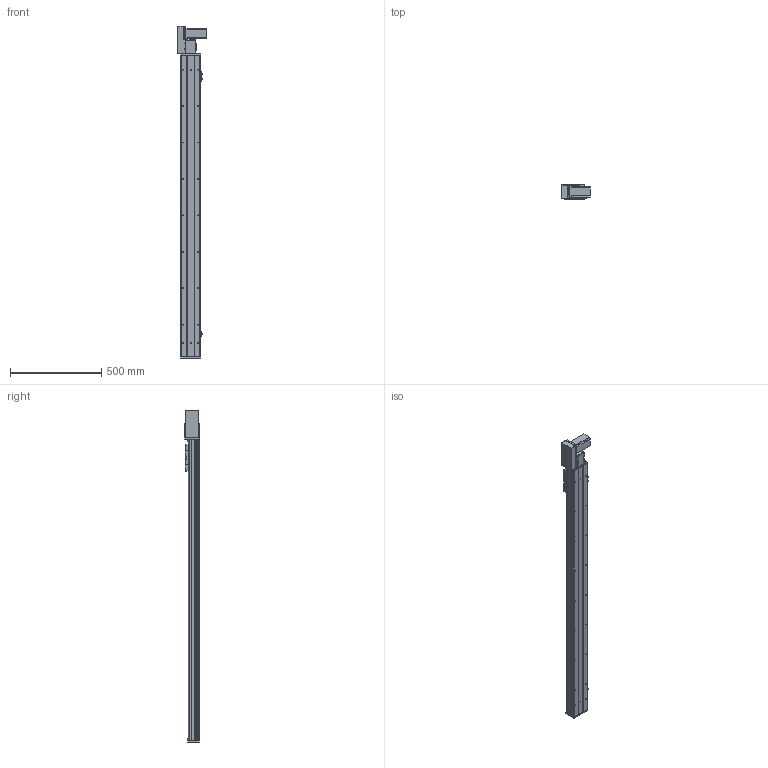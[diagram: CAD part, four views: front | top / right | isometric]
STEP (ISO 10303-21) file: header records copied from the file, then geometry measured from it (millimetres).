
FILE_DESCRIPTION (( 'STEP AP203' ), '1' );
FILE_NAME ('Y10CB-D90-S1400-BL-P400W.STEP', '2020-02-15T08:05:25', ( '微软用户' ), ( '微软中国' ), 'SwSTEP 2.0', 'SolidWorks 2017', '' );
FILE_SCHEMA (( 'CONFIG_CONTROL_DESIGN' ));
Length unit declared in the file: millimetre
Products named in the file (18): Y100-135俋离換覜ん--; 0B-埴倛裔啣; 0CB-雄赽釱---; Y10CB-D90-S1400-BL-P400W; Y俋欶BR----; 0Cb-俋欶---; 10CB-詩湍-; Y10B-々湍喘謫眊楊擘啣--; Y10CB- 掛极耜裔啣-毀---; Y10B--々湍喘謫眊--666; Y10C---詩湍揤啣; Y10B-耜蚾蟀諉啣----; 10CB9-掛极; 0B-萇儂楊擘啣; 10CB-耜裔; san松下电机400不带刹车----; Y135C-陔俋离換覜結え-; 0B-源倛裔啣
Assembly tree (21 placements, depth 2):
  Y10CB-D90-S1400-BL-P400W
    0CB-雄赽釱---
    0Cb-俋欶---
    Y10B-々湍喘謫眊楊擘啣--
    Y10B--々湍喘謫眊--666
    Y10B-耜蚾蟀諉啣----
    0B-萇儂楊擘啣
    san松下电机400不带刹车----
    0B-源倛裔啣
    0B-埴倛裔啣
    Y俋欶BR----
    10CB-詩湍-
    Y10CB- 掛极耜裔啣-毀---  x2
    Y10C---詩湍揤啣  x2
    10CB9-掛极
    10CB-耜裔
    Y135C-陔俋离換覜結え-
    Y100-135俋离換覜ん--  x3
Bounding box: 157.5 x 80.5 x 1822.5 mm (x, y, z)
Volume: 3834711.7 mm3; surface area: 1764826 mm2
Topology: 21 solids, 21 shells, 1014 faces, 2723 edges, 1778 vertices
Faces by surface type: cylinder 507, plane 483, cone 24
Entity records: 31904 total; most frequent: CARTESIAN_POINT 5765, DIRECTION 5130, ORIENTED_EDGE 4916, EDGE_CURVE 2458, AXIS2_PLACEMENT_3D 1833, VERTEX_POINT 1604, VECTOR 1464, LINE 1464
